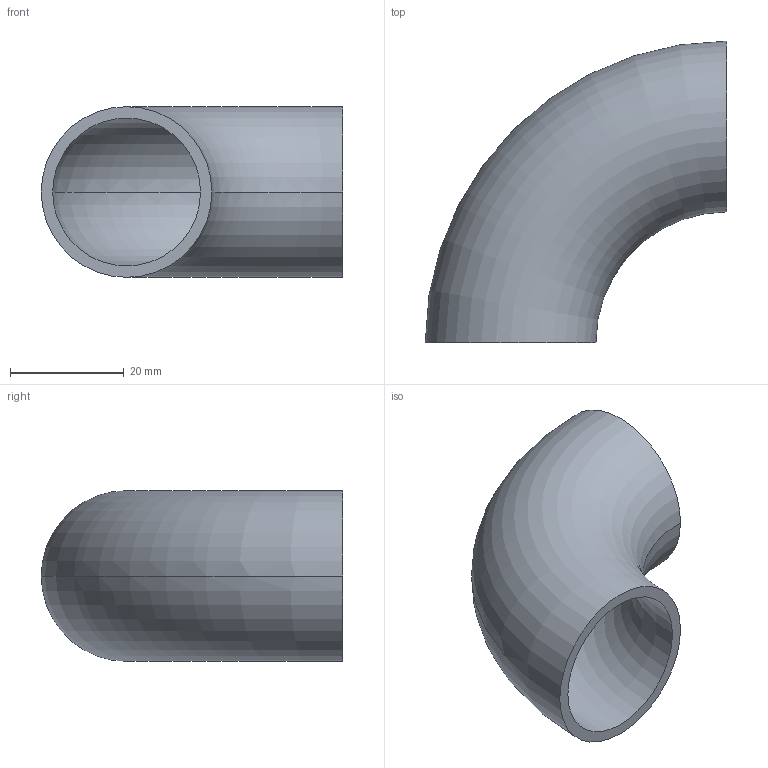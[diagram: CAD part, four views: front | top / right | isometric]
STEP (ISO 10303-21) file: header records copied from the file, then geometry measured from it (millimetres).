
FILE_DESCRIPTION (( 'STEP AP203' ), '1' );
FILE_NAME ('OT212-25-30x2_OSTP.step', '2020-12-16T01:39:52', ( '' ), ( '' ), 'SwSTEP 2.0', 'SolidWorks 2014', '' );
FILE_SCHEMA (( 'CONFIG_CONTROL_DESIGN' ));
Length unit declared in the file: millimetre
Products named in the file (1): OT212-25-30x2_OSTP
Bounding box: 53 x 53 x 30 mm (x, y, z)
Volume: 10501.3 mm3; surface area: 10853.1 mm2
Topology: 1 solids, 1 shells, 6 faces, 12 edges, 8 vertices
Faces by surface type: torus 4, plane 2
Entity records: 249 total; most frequent: DIRECTION 38, CARTESIAN_POINT 27, ORIENTED_EDGE 24, AXIS2_PLACEMENT_3D 19, EDGE_CURVE 12, CIRCLE 12, VERTEX_POINT 8, PERSON_AND_ORGANIZATION 8
